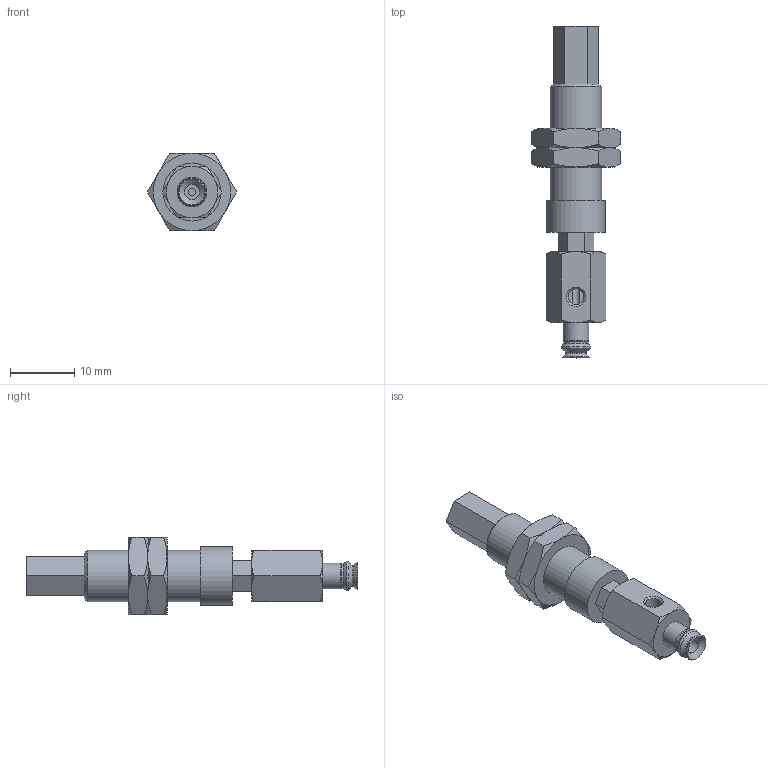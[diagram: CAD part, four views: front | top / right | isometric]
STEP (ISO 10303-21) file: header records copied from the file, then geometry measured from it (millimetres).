
FILE_DESCRIPTION(('STEP AP203'),'1');
FILE_NAME('.stp','2025-04-24T05:04:42',(' '),(' '),'Spatial InterOp 3D',' ',' ');
FILE_SCHEMA(('CONFIG_CONTROL_DESIGN'));
Length unit declared in the file: millimetre
Products named in the file (6): BNABPJYH-4-3-※; CONNECTOR-H-2A-3; Nut-2A-3-h; NAPFTH-2A-3-FBODY; NAPFTH-2A-3-MBODY; BPJG-4-※
Assembly tree (6 placements, depth 2):
  BNABPJYH-4-3-※
    CONNECTOR-H-2A-3
    Nut-2A-3-h  x2
    NAPFTH-2A-3-FBODY
    NAPFTH-2A-3-MBODY
    BPJG-4-※
Bounding box: 13.86 x 51.5 x 12 mm (x, y, z)
Volume: 2642.9 mm3; surface area: 3205.8 mm2
Topology: 6 solids, 6 shells, 140 faces, 309 edges, 188 vertices
Faces by surface type: plane 63, cone 54, cylinder 14, torus 9
Full cylindrical faces by diameter (mm): 1.2 x1, 2 x2, 2.4 x1, 2.459 x2, 3 x3, 4 x1, 7.188 x2, 8 x1, 9 x1
Entity records: 3480 total; most frequent: CARTESIAN_POINT 830, DIRECTION 482, ORIENTED_EDGE 428, EDGE_CURVE 214, AXIS2_PLACEMENT_3D 198, EDGE_LOOP 170, VERTEX_POINT 150, FACE_OUTER_BOUND 139
